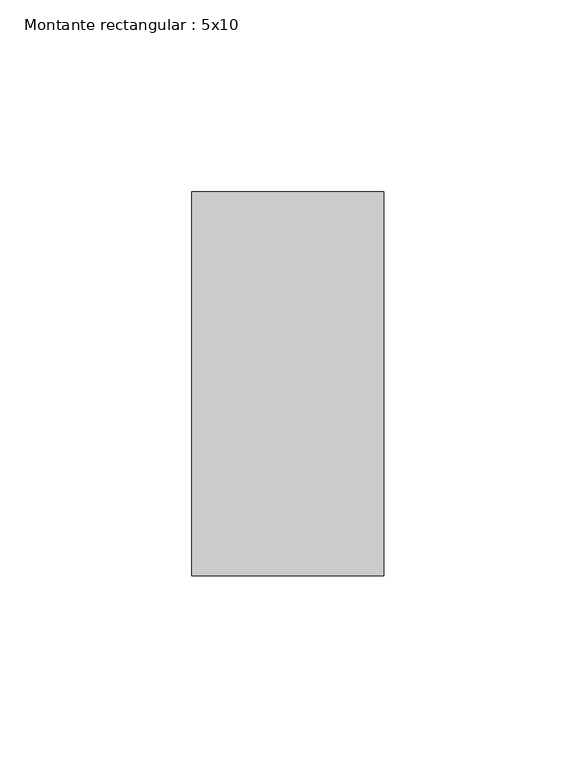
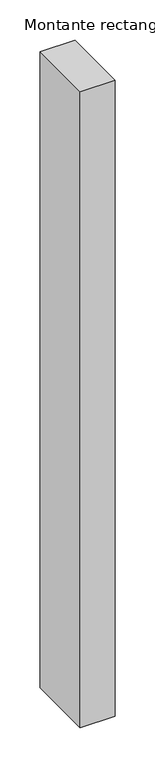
"""IFC4 building model written with IfcOpenShell, lengths in millimetres: member geometry, Montante rectangular : 5x10."""

from ifc_helpers import new_model, si_unit, frame, origin, place, context, project, spatial, polyline, outline, extrude, source, transform, mapped, element, save


def montante_rectangular_5x10_69503be4(model_context):
    return source(origin(), model_context, "Body", "SweptSolid", [
        extrude(outline(polyline([(25.0, 50.0), (25.0, -50.0), (-25.0, -50.0), (-25.0, 50.0), (25.0, 50.0)])), frame((0.0, 0.0, -965.9179485), z_axis=(0.0, 0.0, 1.0), x_axis=(1.0, 0.0, 0.0)), (0.0, 0.0, 1.0), 965.9179485),
    ])


if __name__ == "__main__":
    model = new_model("IFC4")
    model_context = context("Model", 3, world=origin())
    ifc_project = project(units=[si_unit("LENGTHUNIT", "METRE", prefix="MILLI")], contexts=[model_context])
    site = spatial("IfcSite", under=ifc_project)
    building = spatial("IfcBuilding", under=site)
    placement = place(None, origin())
    montante_rectangular_5x10_shape = montante_rectangular_5x10_69503be4(model_context)
    element("IfcMember", 1, ObjectType="Montante rectangular : 5x10", at=placement, inside=building, context=model_context, shape_type="MappedRepresentation", body=[
        mapped(montante_rectangular_5x10_shape, transform((0.0, 0.0, 0.0), x_axis=(1.0, 0.0, 0.0), y_axis=(0.0, 1.0, 0.0), z_axis=(0.0, 0.0, 1.0))),
    ])
    save(model, "model.ifc")
